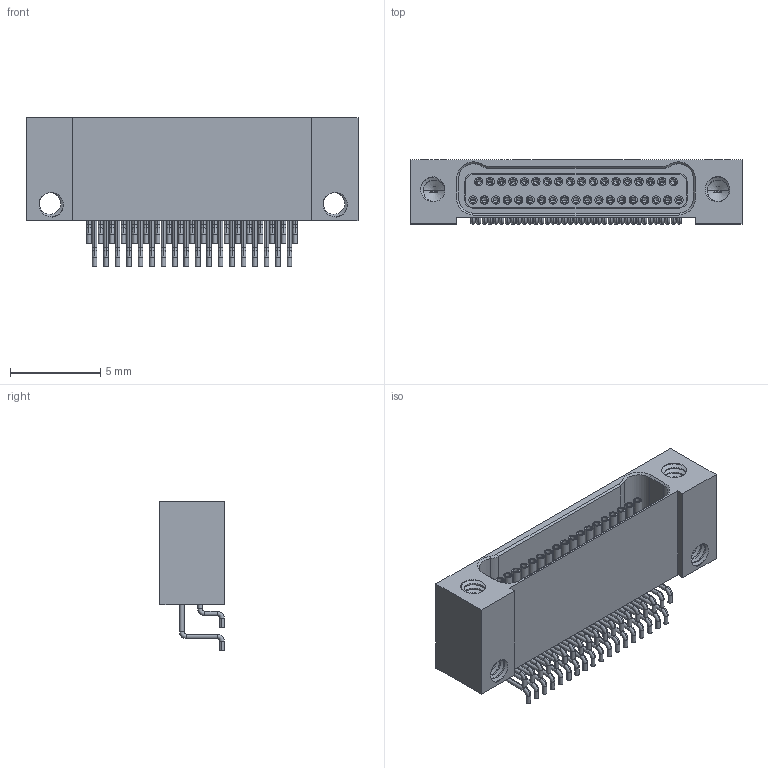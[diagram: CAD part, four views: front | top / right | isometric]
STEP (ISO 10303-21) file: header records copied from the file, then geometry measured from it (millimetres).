
FILE_DESCRIPTION (( 'STEP AP214' ), '1' );
FILE_NAME ('A29100-037 REV K.STEP', '2015-11-04T21:21:38', ( '' ), ( '' ), 'SwSTEP 2.0', 'SolidWorks 2015', '' );
FILE_SCHEMA (( 'AUTOMOTIVE_DESIGN' ));
Length unit declared in the file: inch
Products named in the file (1): A29100-037
Bounding box: 18.41 x 3.58 x 8.23 mm (x, y, z)
Volume: 241.2 mm3; surface area: 931 mm2
Topology: 1 solids, 3 shells, 992 faces, 2388 edges, 1450 vertices
Faces by surface type: cylinder 460, plane 230, torus 148, cone 92, bspline 62
Entity records: 39461 total; most frequent: CARTESIAN_POINT 15833, DIRECTION 4895, ORIENTED_EDGE 4624, EDGE_CURVE 2312, AXIS2_PLACEMENT_3D 1954, VERTEX_POINT 1450, EDGE_LOOP 1124, CIRCLE 1023
